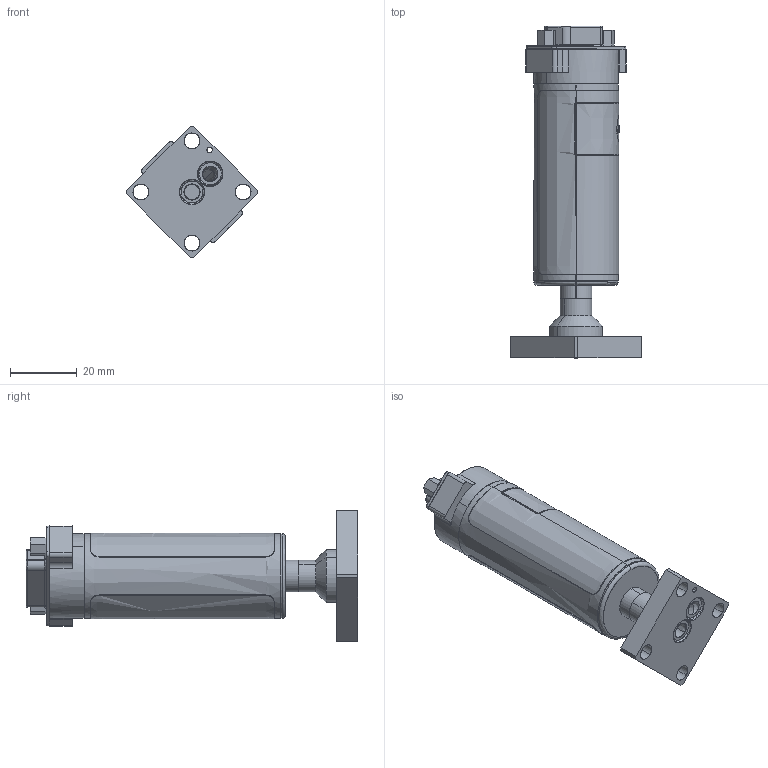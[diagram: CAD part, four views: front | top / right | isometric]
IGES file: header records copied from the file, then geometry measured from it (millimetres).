
Start section: SolidWorks IGES file using analytic representation for surfaces
Global section: file name: R:\Brooks Instrument\25-0024 SSII CAD File Generation\Client Files\SSII CAD Models for Website\CAD for Brooks Website\Example\GSD\GSD-XXXXXX-D-XXX-CS\IGES\GSD-XXXXXX-D-XXX-CS.IGS; native system: SolidWorks 2023; preprocessor: SolidWorks 2023; author: dgoddard; date: 250623.102821; units: inch
Bounding box: 39.33 x 99.68 x 39.33 mm (x, y, z)
Surface area: 17435.6 mm2 (no closed solid volume)
Topology: 0 solids, 0 shells, 376 faces, 4341 edges, 4273 vertices
Faces by surface type: revolution 201, bspline 175
